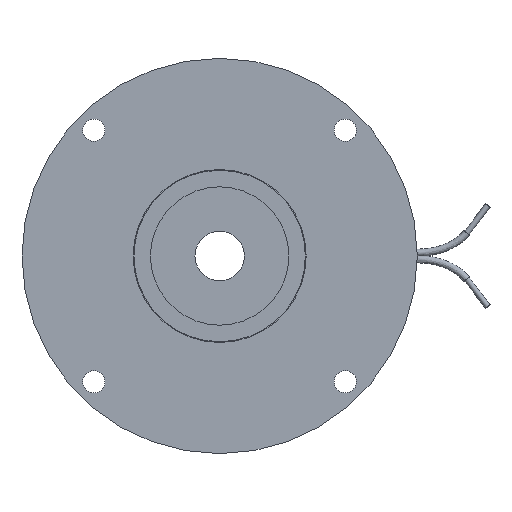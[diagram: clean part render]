
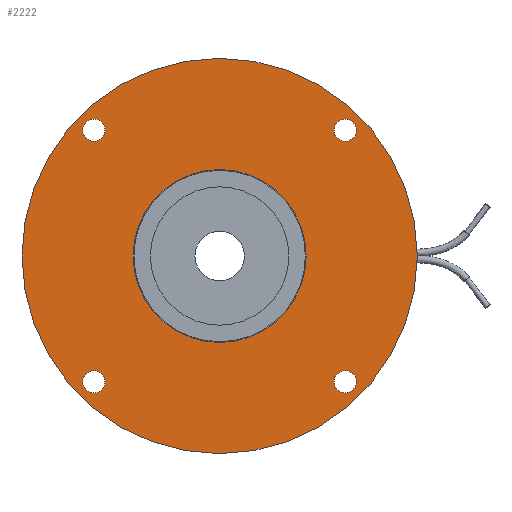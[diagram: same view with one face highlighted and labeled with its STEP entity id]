
A CAD part, left-side view. The second image highlights one B-rep face of the part: STEP entity #2222.
In plain terms, the highlighted planar face has unit normal (-1, 0, 0).
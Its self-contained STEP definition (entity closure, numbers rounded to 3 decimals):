
#274=FACE_BOUND('',#534,.T.);
#275=FACE_BOUND('',#535,.T.);
#276=FACE_BOUND('',#536,.T.);
#277=FACE_BOUND('',#537,.T.);
#278=FACE_BOUND('',#538,.T.);
#387=FACE_OUTER_BOUND('',#533,.T.);
#533=EDGE_LOOP('',(#1781,#1782));
#534=EDGE_LOOP('',(#1783));
#535=EDGE_LOOP('',(#1784));
#536=EDGE_LOOP('',(#1785));
#537=EDGE_LOOP('',(#1786));
#538=EDGE_LOOP('',(#1787,#1788));
#724=CIRCLE('',#2473,2.25);
#725=CIRCLE('',#2475,2.25);
#726=CIRCLE('',#2477,2.25);
#727=CIRCLE('',#2479,2.25);
#728=CIRCLE('',#2481,40.);
#729=CIRCLE('',#2482,40.);
#744=CIRCLE('',#2506,17.5);
#745=CIRCLE('',#2507,17.5);
#956=VERTEX_POINT('',#3986);
#957=VERTEX_POINT('',#3990);
#958=VERTEX_POINT('',#3994);
#959=VERTEX_POINT('',#3998);
#960=VERTEX_POINT('',#4002);
#961=VERTEX_POINT('',#4004);
#976=VERTEX_POINT('',#4048);
#977=VERTEX_POINT('',#4050);
#1234=EDGE_CURVE('',#956,#956,#724,.T.);
#1236=EDGE_CURVE('',#957,#957,#725,.T.);
#1238=EDGE_CURVE('',#958,#958,#726,.T.);
#1240=EDGE_CURVE('',#959,#959,#727,.T.);
#1242=EDGE_CURVE('',#960,#961,#728,.T.);
#1243=EDGE_CURVE('',#961,#960,#729,.T.);
#1263=EDGE_CURVE('',#977,#976,#744,.T.);
#1264=EDGE_CURVE('',#976,#977,#745,.T.);
#1781=ORIENTED_EDGE('',*,*,#1243,.F.);
#1782=ORIENTED_EDGE('',*,*,#1242,.F.);
#1783=ORIENTED_EDGE('',*,*,#1234,.T.);
#1784=ORIENTED_EDGE('',*,*,#1236,.T.);
#1785=ORIENTED_EDGE('',*,*,#1238,.T.);
#1786=ORIENTED_EDGE('',*,*,#1240,.T.);
#1787=ORIENTED_EDGE('',*,*,#1263,.T.);
#1788=ORIENTED_EDGE('',*,*,#1264,.T.);
#2029=PLANE('',#2508);
#2222=ADVANCED_FACE('',(#387,#274,#275,#276,#277,#278),#2029,.T.);
#2473=AXIS2_PLACEMENT_3D('',#3988,#3064,#3065);
#2475=AXIS2_PLACEMENT_3D('',#3992,#3069,#3070);
#2477=AXIS2_PLACEMENT_3D('',#3996,#3074,#3075);
#2479=AXIS2_PLACEMENT_3D('',#4000,#3079,#3080);
#2481=AXIS2_PLACEMENT_3D('',#4005,#3084,#3085);
#2482=AXIS2_PLACEMENT_3D('',#4006,#3086,#3087);
#2506=AXIS2_PLACEMENT_3D('',#4051,#3139,#3140);
#2507=AXIS2_PLACEMENT_3D('',#4052,#3141,#3142);
#2508=AXIS2_PLACEMENT_3D('',#4053,#3143,#3144);
#3064=DIRECTION('center_axis',(1.,0.,0.));
#3065=DIRECTION('ref_axis',(0.,0.,-1.));
#3069=DIRECTION('center_axis',(1.,0.,0.));
#3070=DIRECTION('ref_axis',(0.,0.,-1.));
#3074=DIRECTION('center_axis',(1.,0.,0.));
#3075=DIRECTION('ref_axis',(0.,0.,-1.));
#3079=DIRECTION('center_axis',(1.,0.,0.));
#3080=DIRECTION('ref_axis',(0.,0.,-1.));
#3084=DIRECTION('center_axis',(1.,0.,0.));
#3085=DIRECTION('ref_axis',(0.,0.,-1.));
#3086=DIRECTION('center_axis',(1.,0.,0.));
#3087=DIRECTION('ref_axis',(0.,0.,-1.));
#3139=DIRECTION('center_axis',(1.,0.,0.));
#3140=DIRECTION('ref_axis',(0.,0.,-1.));
#3141=DIRECTION('center_axis',(1.,0.,0.));
#3142=DIRECTION('ref_axis',(0.,0.,-1.));
#3143=DIRECTION('center_axis',(-1.,0.,0.));
#3144=DIRECTION('ref_axis',(0.,0.,1.));
#3986=CARTESIAN_POINT('',(-9.,-25.456,-23.206));
#3988=CARTESIAN_POINT('Origin',(-9.,-25.456,-25.456));
#3990=CARTESIAN_POINT('',(-9.,25.456,27.706));
#3992=CARTESIAN_POINT('Origin',(-9.,25.456,25.456));
#3994=CARTESIAN_POINT('',(-9.,-25.456,27.706));
#3996=CARTESIAN_POINT('Origin',(-9.,-25.456,25.456));
#3998=CARTESIAN_POINT('',(-9.,25.456,-23.206));
#4000=CARTESIAN_POINT('Origin',(-9.,25.456,-25.456));
#4002=CARTESIAN_POINT('',(-9.,-40.,0.));
#4004=CARTESIAN_POINT('',(-9.,40.,0.));
#4005=CARTESIAN_POINT('Origin',(-9.,0.,0.));
#4006=CARTESIAN_POINT('Origin',(-9.,0.,0.));
#4048=CARTESIAN_POINT('',(-9.,-17.5,0.));
#4050=CARTESIAN_POINT('',(-9.,17.5,0.));
#4051=CARTESIAN_POINT('Origin',(-9.,0.,0.));
#4052=CARTESIAN_POINT('Origin',(-9.,0.,0.));
#4053=CARTESIAN_POINT('Origin',(-9.,40.,0.));
